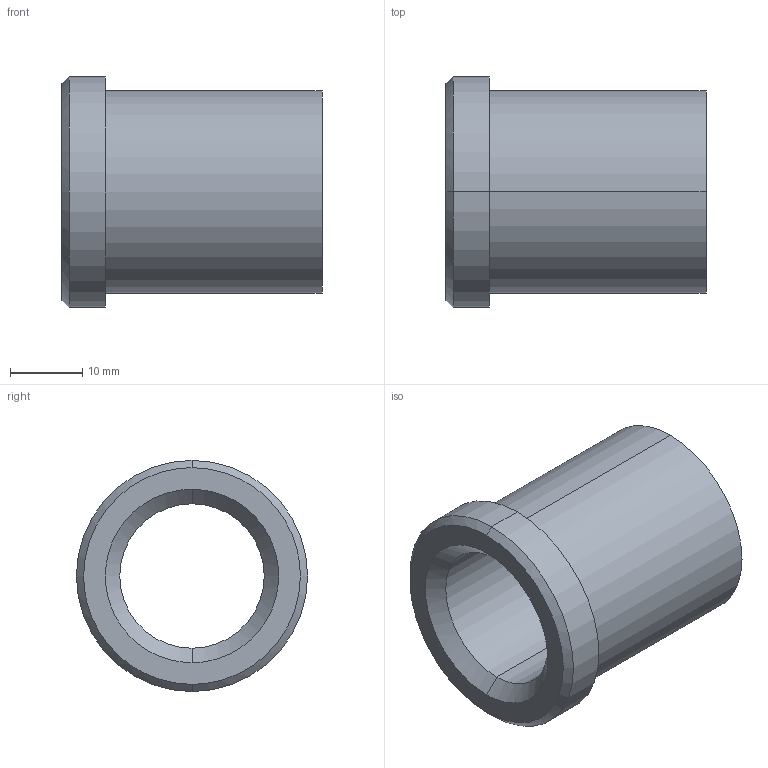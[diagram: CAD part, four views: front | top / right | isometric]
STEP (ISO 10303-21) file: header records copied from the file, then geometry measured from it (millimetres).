
FILE_DESCRIPTION(('CATIA V5 STEP Exchange'),'2;1');
FILE_NAME('C:\Users\Utente\Desktop\IO LAVORO\3D X SITO CF\X SITO\PLASTICA\353\353-20X36.stp','2021-05-11T14:50:36+00:00',('none'),('none'),'CATIA Version 5 Release 20 GA (IN-10)','CATIA V5 STEP AP203','none');
FILE_SCHEMA(('CONFIG_CONTROL_DESIGN'));
Length unit declared in the file: millimetre
Products named in the file (1): 353-20X36
Bounding box: 36 x 32 x 32 mm (x, y, z)
Volume: 11773.7 mm3; surface area: 6316.2 mm2
Topology: 1 solids, 1 shells, 15 faces, 48 edges, 36 vertices
Faces by surface type: cylinder 6, cone 4, plane 3, torus 2
Entity records: 680 total; most frequent: CARTESIAN_POINT 212, ORIENTED_EDGE 96, DIRECTION 70, EDGE_CURVE 48, AXIS2_PLACEMENT_3D 46, VERTEX_POINT 36, CIRCLE 30, EDGE_LOOP 18
